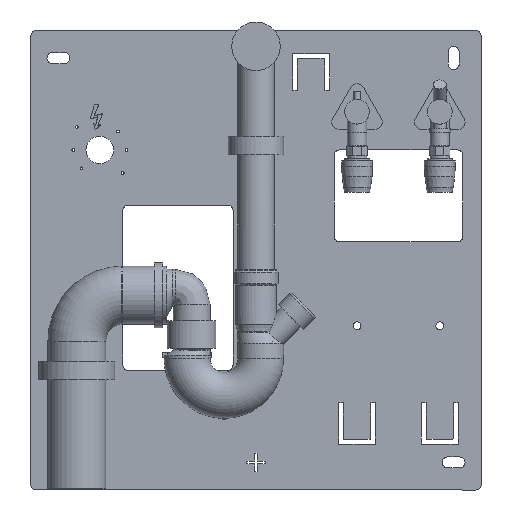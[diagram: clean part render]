
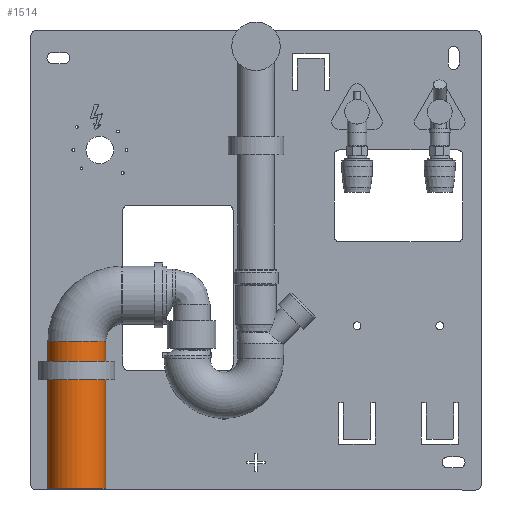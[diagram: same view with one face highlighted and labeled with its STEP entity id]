
A CAD part, front view. The second image highlights one B-rep face of the part: STEP entity #1514.
In plain terms, the highlighted cylindrical face has radius 31.5 mm (diameter 63 mm), a full revolution.
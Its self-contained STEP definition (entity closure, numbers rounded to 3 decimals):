
#1514=ADVANCED_FACE('',(#3045,#3046),#3047,.T.);
#3045=FACE_BOUND('',#5213,.T.);
#3046=FACE_BOUND('',#5214,.T.);
#3047=CYLINDRICAL_SURFACE('',#5215,31.5);
#5213=EDGE_LOOP('',(#6565));
#5214=EDGE_LOOP('',(#6566));
#5215=AXIS2_PLACEMENT_3D('',#6567,#6568,#6569);
#6565=ORIENTED_EDGE('',*,*,#9752,.F.);
#6566=ORIENTED_EDGE('',*,*,#9753,.T.);
#6567=CARTESIAN_POINT('',(-136.765,-50.0,190.0));
#6568=DIRECTION('',(0.,0.,1.0));
#6569=DIRECTION('',(0.,1.0,0.));
#9752=EDGE_CURVE('',#12330,#12330,#12331,.T.);
#9753=EDGE_CURVE('',#12332,#12332,#12333,.T.);
#12330=VERTEX_POINT('',#14114);
#12331=CIRCLE('',#14115,31.5);
#12332=VERTEX_POINT('',#14116);
#12333=CIRCLE('',#14117,31.5);
#14114=CARTESIAN_POINT('',(-105.265,-50.0,350.));
#14115=AXIS2_PLACEMENT_3D('',#16109,#16110,#16111);
#14116=CARTESIAN_POINT('',(-136.765,-18.5,190.0));
#14117=AXIS2_PLACEMENT_3D('',#16112,#16113,#16114);
#16109=CARTESIAN_POINT('',(-136.765,-50.0,350.));
#16110=DIRECTION('',(0.0,0.0,1.0));
#16111=DIRECTION('',(-1.0,0.,0.0));
#16112=CARTESIAN_POINT('',(-136.765,-50.0,190.0));
#16113=DIRECTION('',(0.,0.,1.0));
#16114=DIRECTION('',(0.,1.0,0.));
